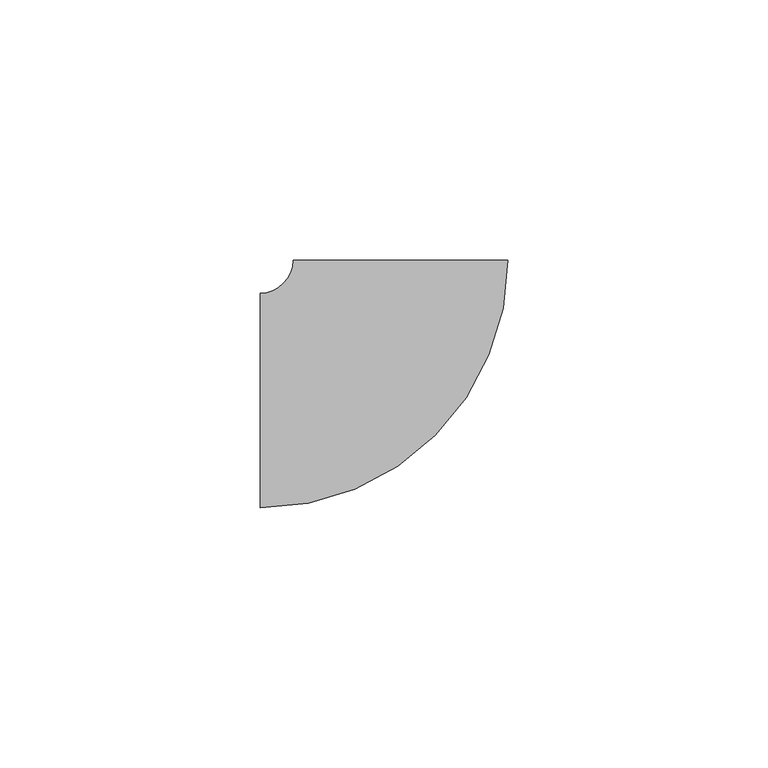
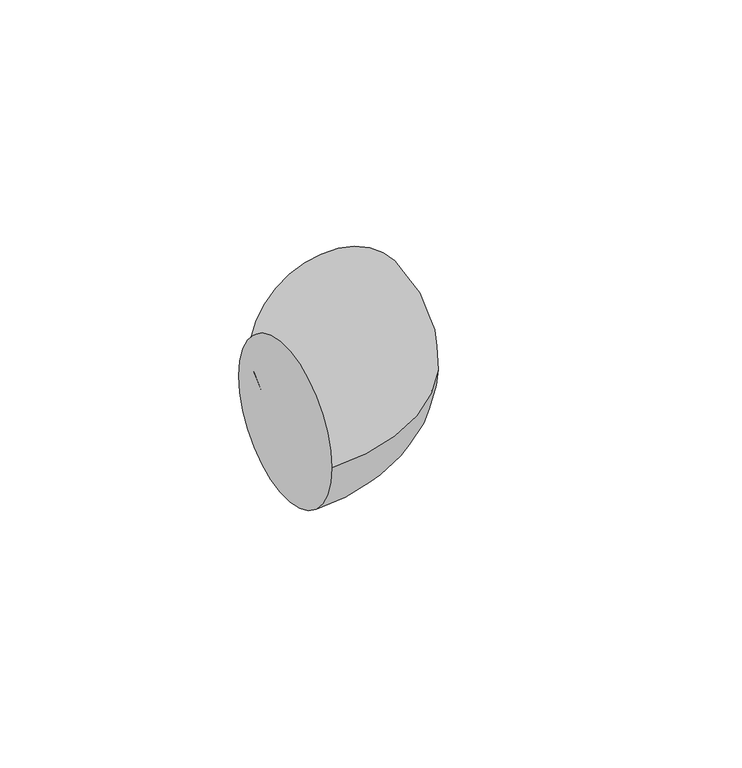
"""IFC4 building model written with IfcOpenShell, lengths in millimetres: pipe fitting geometry, M_Codo - Genérico : Estándar."""

from ifc_helpers import new_model, si_unit, point, frame, origin, place, context, project, spatial, circle_curve, ellipse_curve, trimmed, source, transform, mapped, element, save
from ifc_brep_helpers import plane_surface, revolved_surface, advanced_brep


def pipe_fitting_c7f6bb04(model_context):
    return source(origin(), model_context, "Body", "AdvancedBrep", [
        advanced_brep(
        [(-26.9873781, -20.6375, 0.0), (-26.9873781, 20.6375, 0.0), (20.6376219, 26.9872848, 0.0), (-20.6373781, 26.9874713, 0.0)],
        [
            (0, 1, circle_curve(frame((-26.9873781, 0.0, 0.0), z_axis=(-1.0, 0.0, 0.0), x_axis=(0.0, 1.0, 0.0)), 20.6375)),
            (1, 0, circle_curve(frame((-26.9873781, 0.0, 0.0), z_axis=(-1.0, 0.0, 0.0), x_axis=(0.0, 1.0, 0.0)), 20.6375)),
            (2, 3, circle_curve(frame((0.0001219, 26.9873781, 0.0), z_axis=(4.517777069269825e-06, 0.9999999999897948, 0.0), x_axis=(-0.9999999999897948, 4.517777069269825e-06, 0.0)), 20.6375)),
            (3, 2, circle_curve(frame((0.0001219, 26.9873781, 0.0), z_axis=(4.517777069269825e-06, 0.9999999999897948, 0.0), x_axis=(-0.9999999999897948, 4.517777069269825e-06, 0.0)), 20.6375)),
            (3, 1, circle_curve(frame((-26.9873781, 26.9875, 0.0), z_axis=(0.0, 0.0, -1.0), x_axis=(0.0, -1.0, 0.0)), 6.35)),
            (0, 2, circle_curve(frame((-26.9873781, 26.9875, 0.0), z_axis=(0.0, 0.0, 1.0), x_axis=(0.0, -1.0, 0.0)), 47.625)),
        ],
        [
            plane_surface(frame((-26.9873781, 0.0, 0.0), z_axis=(-1.0, 0.0, 0.0), x_axis=(0.0, 0.0, 1.0))),
            plane_surface(frame((0.0001219, 26.9873781, 0.0), z_axis=(4.517777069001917e-06, 0.9999999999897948, 0.0), x_axis=(0.0, 0.0, 1.0))),
            revolved_surface(trimmed(ellipse_curve(frame((-26.9873781, 0.0, 0.0), z_axis=(-1.0, 0.0, 0.0), x_axis=(0.0, 1.0, 0.0)), 20.6375, 20.6375), [point((-26.9873781, -20.6375, 0.0))], [point((-26.9873781, 20.6375, 0.0))], True, "CARTESIAN"), (-26.9873781, 26.9875, 0.0), (0.0, 0.0, 1.0)),
            revolved_surface(trimmed(ellipse_curve(frame((-26.9873781, 0.0, 0.0), z_axis=(-1.0, 0.0, 0.0), x_axis=(0.0, 1.0, 0.0)), 20.6375, 20.6375), [point((-26.9873781, 20.6375, 0.0))], [point((-26.9873781, -20.6375, 0.0))], True, "CARTESIAN"), (-26.9873781, 26.9875, 0.0), (0.0, 0.0, 1.0)),
        ],
        [
            (0, [[1, 2]]),
            (1, [[3, 4]]),
            (2, [[5, -1, 6, -4]]),
            (3, [[-6, -2, -5, -3]]),
        ],
    ),
    ])


if __name__ == "__main__":
    model = new_model("IFC4")
    model_context = context("Model", 3, world=origin())
    ifc_project = project(units=[si_unit("LENGTHUNIT", "METRE", prefix="MILLI")], contexts=[model_context])
    site = spatial("IfcSite", under=ifc_project)
    building = spatial("IfcBuilding", under=site)
    placement = place(None, origin())
    pipe_fitting_shape = pipe_fitting_c7f6bb04(model_context)
    element("IfcPipeFitting", 1, ObjectType="M_Codo - Genérico : Estándar", at=placement, inside=building, context=model_context, shape_type="MappedRepresentation", body=[
        mapped(pipe_fitting_shape, transform((0.0, 0.0, 0.0), x_axis=(1.0, 0.0, 0.0), y_axis=(0.0, 1.0, 0.0), z_axis=(0.0, 0.0, 1.0))),
    ])
    save(model, "model.ifc")
